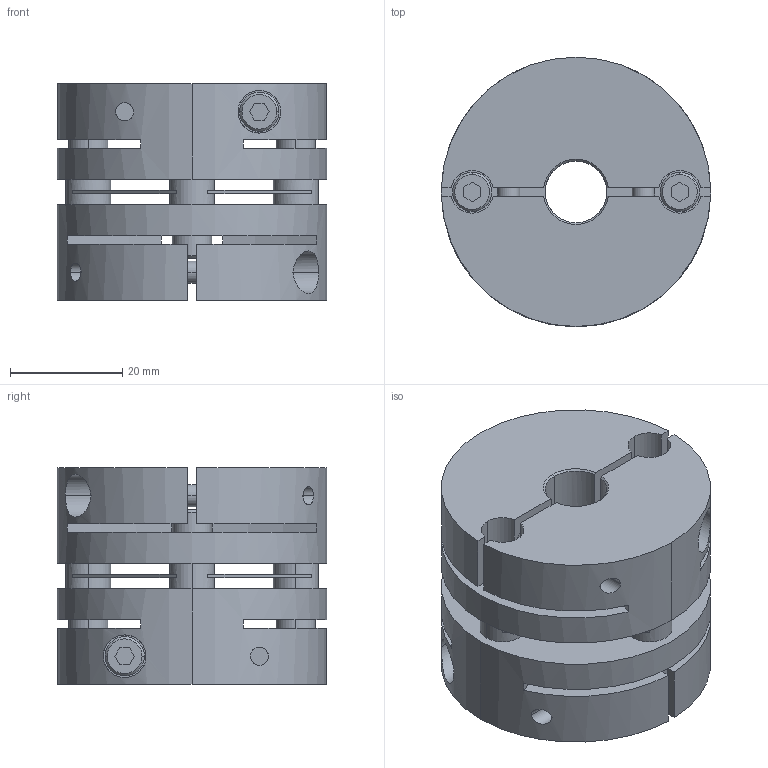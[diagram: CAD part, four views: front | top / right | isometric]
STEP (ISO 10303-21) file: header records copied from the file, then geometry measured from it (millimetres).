
FILE_DESCRIPTION((''),'2;1');
FILE_NAME('LAS-48C-11×14.stp','2015-10-14T15:37:50',(''),(''),'AutoCAD STEP 2000i','AutoCAD 2000i',', , ');
FILE_SCHEMA(('CONFIG_CONTROL_DESIGN'));
Length unit declared in the file: millimetre
Products named in the file (5): LAS-48C-12×12; 忣兜1; LA-4802-D12-1; LA-4802-D12; LAS48-ITA
Assembly tree (4 placements, depth 2):
  LAS-48C-12×12
    忣兜1
    LA-4802-D12-1
    LA-4802-D12
    LAS48-ITA
Bounding box: 48 x 48 x 38.6 mm (x, y, z)
Volume: 51391.5 mm3; surface area: 22693.3 mm2
Topology: 1 solids, 1 shells, 224 faces, 588 edges, 384 vertices
Faces by surface type: plane 112, cylinder 84, cone 28
Entity records: 7607 total; most frequent: CARTESIAN_POINT 1713, DIRECTION 1250, ORIENTED_EDGE 1176, EDGE_CURVE 588, AXIS2_PLACEMENT_3D 457, VERTEX_POINT 384, VECTOR 336, LINE 336
